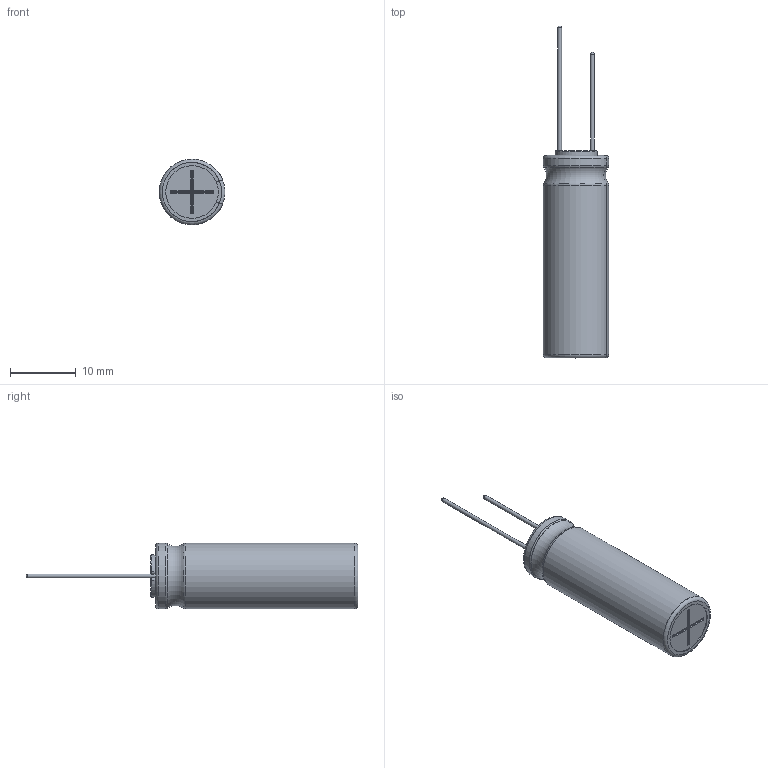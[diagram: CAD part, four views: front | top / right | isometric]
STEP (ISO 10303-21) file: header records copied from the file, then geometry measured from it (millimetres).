
FILE_DESCRIPTION(/* description */ (''),/* implementation_level */ '2;1');
FILE_NAME(/* name */ '10x31.5_Lead.stp',/* time_stamp */ '2017-09-05T14:14:08+09:00',/* author */ (''),/* organization */ (''),/* preprocessor_version */ 'ST-DEVELOPER v16',/* originating_system */ 'SIEMENS PLM Software NX 11.0',/* authorisation */ '');
FILE_SCHEMA (('AUTOMOTIVE_DESIGN { 1 0 10303 214 3 1 1 1 }'));
Length unit declared in the file: millimetre
Products named in the file (1): 10x31.5_Lead_0
Bounding box: 9.99 x 50.5 x 10 mm (x, y, z)
Volume: 2413 mm3; surface area: 3180.9 mm2
Topology: 3 solids, 3 shells, 115 faces, 288 edges, 181 vertices
Faces by surface type: cylinder 44, torus 33, plane 28, sphere 6, bspline 4
Full cylindrical faces by diameter (mm): 0.6 x2, 9.8 x2
Entity records: 4020 total; most frequent: CARTESIAN_POINT 680, DIRECTION 664, ORIENTED_EDGE 544, AXIS2_PLACEMENT_3D 280, EDGE_CURVE 272, VERTEX_POINT 176, CIRCLE 160, EDGE_LOOP 128
